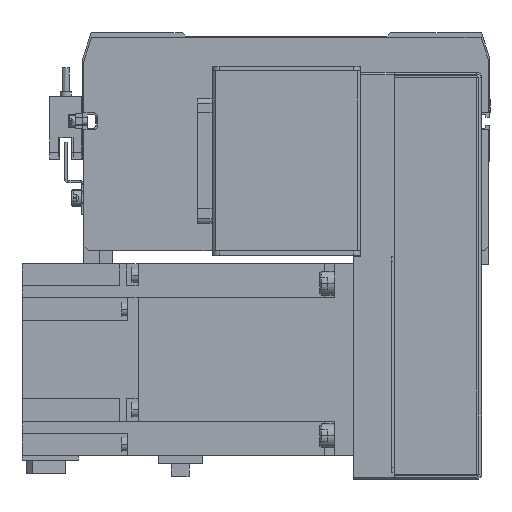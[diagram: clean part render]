
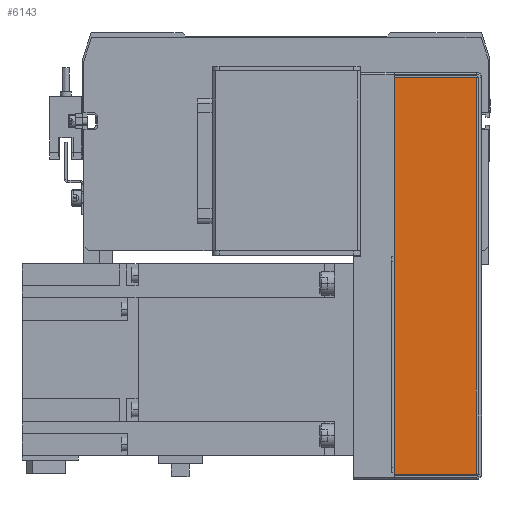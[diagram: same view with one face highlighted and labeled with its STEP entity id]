
A CAD part, front view. The second image highlights one B-rep face of the part: STEP entity #6143.
In plain terms, the highlighted planar face has unit normal (0, -1, 0).
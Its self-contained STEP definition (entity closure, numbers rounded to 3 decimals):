
#460 = DIRECTION ( 'NONE',  ( 0., 0., -1. ) ) ;
#1121 = CARTESIAN_POINT ( 'NONE',  ( 97.724, -45.778, 211.263 ) ) ;
#2654 = EDGE_CURVE ( 'NONE', #19596, #14993, #11368, .T. ) ;
#4339 = EDGE_CURVE ( 'NONE', #19596, #39137, #24962, .T. ) ;
#4350 = CARTESIAN_POINT ( 'NONE',  ( 97.724, -45.778, 177. ) ) ;
#4516 = VECTOR ( 'NONE', #28671, 1000. ) ;
#6016 = ORIENTED_EDGE ( 'NONE', *, *, #4339, .T. ) ;
#6143 = ADVANCED_FACE ( 'NONE', ( #38050 ), #37042, .F. ) ;
#6295 = CARTESIAN_POINT ( 'NONE',  ( 97.724, -45.778, 212. ) ) ;
#6356 = LINE ( 'NONE', #6295, #12721 ) ;
#9052 = ORIENTED_EDGE ( 'NONE', *, *, #2654, .F. ) ;
#9135 = EDGE_LOOP ( 'NONE', ( #20237, #9052, #6016, #14003 ) ) ;
#10094 = VERTEX_POINT ( 'NONE', #4350 ) ;
#11336 = LINE ( 'NONE', #18338, #26056 ) ;
#11368 = LINE ( 'NONE', #22095, #4516 ) ;
#12225 = DIRECTION ( 'NONE',  ( 0., 1., 0. ) ) ;
#12721 = VECTOR ( 'NONE', #34284, 1000. ) ;
#14003 = ORIENTED_EDGE ( 'NONE', *, *, #31592, .T. ) ;
#14567 = CARTESIAN_POINT ( 'NONE',  ( -67.862, -45.778, 211.263 ) ) ;
#14917 = DIRECTION ( 'NONE',  ( 1., 0., 0. ) ) ;
#14993 = VERTEX_POINT ( 'NONE', #1121 ) ;
#18338 = CARTESIAN_POINT ( 'NONE',  ( 14.931, -45.778, 177. ) ) ;
#19596 = VERTEX_POINT ( 'NONE', #14567 ) ;
#20237 = ORIENTED_EDGE ( 'NONE', *, *, #35247, .F. ) ;
#21261 = CARTESIAN_POINT ( 'NONE',  ( 14.931, -45.778, 213.5 ) ) ;
#22095 = CARTESIAN_POINT ( 'NONE',  ( 99.931, -45.778, 211.263 ) ) ;
#24601 = CARTESIAN_POINT ( 'NONE',  ( -67.862, -45.778, 177. ) ) ;
#24962 = LINE ( 'NONE', #28683, #38205 ) ;
#25980 = AXIS2_PLACEMENT_3D ( 'NONE', #21261, #12225, #27460 ) ;
#26056 = VECTOR ( 'NONE', #14917, 1000. ) ;
#27460 = DIRECTION ( 'NONE',  ( 0., 0., 1. ) ) ;
#28671 = DIRECTION ( 'NONE',  ( 1., 0., 0. ) ) ;
#28683 = CARTESIAN_POINT ( 'NONE',  ( -67.862, -45.778, 213.5 ) ) ;
#31592 = EDGE_CURVE ( 'NONE', #39137, #10094, #11336, .T. ) ;
#34284 = DIRECTION ( 'NONE',  ( 0., 0., -1. ) ) ;
#35247 = EDGE_CURVE ( 'NONE', #14993, #10094, #6356, .T. ) ;
#37042 = PLANE ( 'NONE',  #25980 ) ;
#38050 = FACE_OUTER_BOUND ( 'NONE', #9135, .T. ) ;
#38205 = VECTOR ( 'NONE', #460, 1000. ) ;
#39137 = VERTEX_POINT ( 'NONE', #24601 ) ;
